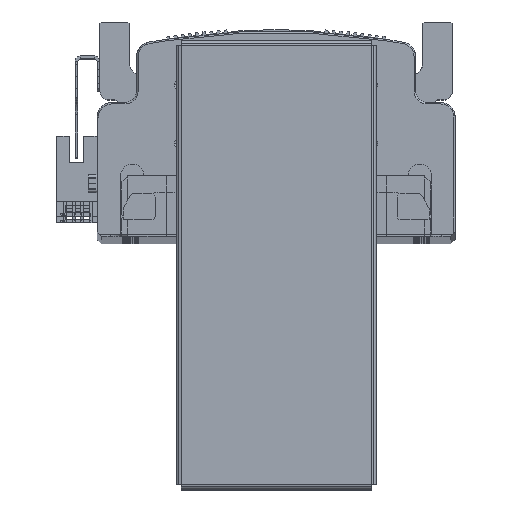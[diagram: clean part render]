
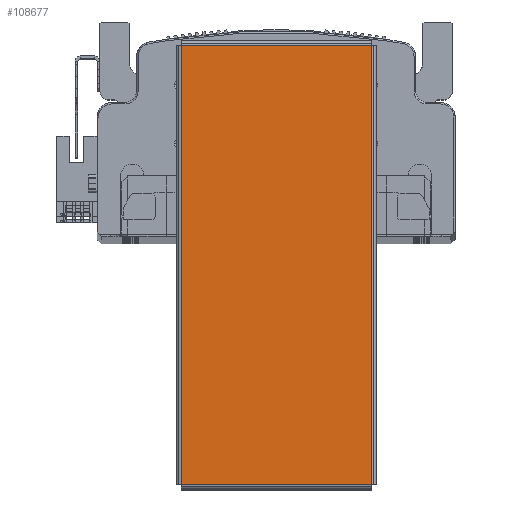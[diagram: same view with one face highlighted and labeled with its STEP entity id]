
A CAD part, top view. The second image highlights one B-rep face of the part: STEP entity #108677.
In plain terms, the highlighted planar face has unit normal (0, 0, 1) as drawn and (0, 0, -1) by its records, which use the part's own axes.
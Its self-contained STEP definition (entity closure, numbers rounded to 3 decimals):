
#3459 = CARTESIAN_POINT ( 'NONE',  ( -74.763, -32.393, -1. ) ) ;
#3609 = DIRECTION ( 'NONE',  ( 0., -1., 0. ) ) ;
#3655 = DIRECTION ( 'NONE',  ( -1., 0., 0. ) ) ;
#3658 = CARTESIAN_POINT ( 'NONE',  ( 74.763, 32.393, -1. ) ) ;
#3686 = DIRECTION ( 'NONE',  ( 0., 1., 0. ) ) ;
#3708 = CARTESIAN_POINT ( 'NONE',  ( 74.793, -32.363, -1. ) ) ;
#3806 = DIRECTION ( 'NONE',  ( 1., 0., 0. ) ) ;
#3826 = CARTESIAN_POINT ( 'NONE',  ( -74.793, 32.363, -1. ) ) ;
#6624 = EDGE_CURVE ( 'NONE', #50685, #50727, #122253, .T. ) ;
#6626 = EDGE_CURVE ( 'NONE', #64293, #75398, #122272, .T. ) ;
#6640 = EDGE_CURVE ( 'NONE', #75398, #50685, #122312, .T. ) ;
#6669 = EDGE_CURVE ( 'NONE', #50727, #64293, #122360, .T. ) ;
#8530 = ORIENTED_EDGE ( 'NONE', *, *, #6669, .T. ) ;
#8545 = ORIENTED_EDGE ( 'NONE', *, *, #6640, .T. ) ;
#8552 = ORIENTED_EDGE ( 'NONE', *, *, #6626, .T. ) ;
#8570 = ORIENTED_EDGE ( 'NONE', *, *, #6624, .T. ) ;
#30507 = CARTESIAN_POINT ( 'NONE',  ( 74.763, -32.363, -1. ) ) ;
#50685 = VERTEX_POINT ( 'NONE', #67150 ) ;
#50727 = VERTEX_POINT ( 'NONE', #67168 ) ;
#53212 = FACE_OUTER_BOUND ( 'NONE', #122076, .T. ) ;
#57346 = DIRECTION ( 'NONE',  ( 0., 0., 1. ) ) ;
#57347 = DIRECTION ( 'NONE',  ( 1., 0., 0. ) ) ;
#57354 = CARTESIAN_POINT ( 'NONE',  ( 0., 0., -1. ) ) ;
#57369 = PLANE ( 'NONE',  #77390 ) ;
#64293 = VERTEX_POINT ( 'NONE', #68197 ) ;
#67150 = CARTESIAN_POINT ( 'NONE',  ( -74.763, -32.363, -1. ) ) ;
#67168 = CARTESIAN_POINT ( 'NONE',  ( -74.763, 32.363, -1. ) ) ;
#68197 = CARTESIAN_POINT ( 'NONE',  ( 74.763, 32.363, -1. ) ) ;
#75398 = VERTEX_POINT ( 'NONE', #30507 ) ;
#77390 = AXIS2_PLACEMENT_3D ( 'NONE', #57354, #57346, #57347 ) ;
#108677 = ADVANCED_FACE ( 'NONE', ( #53212 ), #57369, .F. ) ;
#122076 = EDGE_LOOP ( 'NONE', ( #8552, #8545, #8570, #8530 ) ) ;
#122253 = LINE ( 'NONE', #3459, #122255 ) ;
#122255 = VECTOR ( 'NONE', #3686, 1000. ) ;
#122272 = LINE ( 'NONE', #3658, #122289 ) ;
#122289 = VECTOR ( 'NONE', #3609, 1000. ) ;
#122312 = LINE ( 'NONE', #3708, #122333 ) ;
#122333 = VECTOR ( 'NONE', #3655, 1000. ) ;
#122360 = LINE ( 'NONE', #3826, #122412 ) ;
#122412 = VECTOR ( 'NONE', #3806, 1000. ) ;
